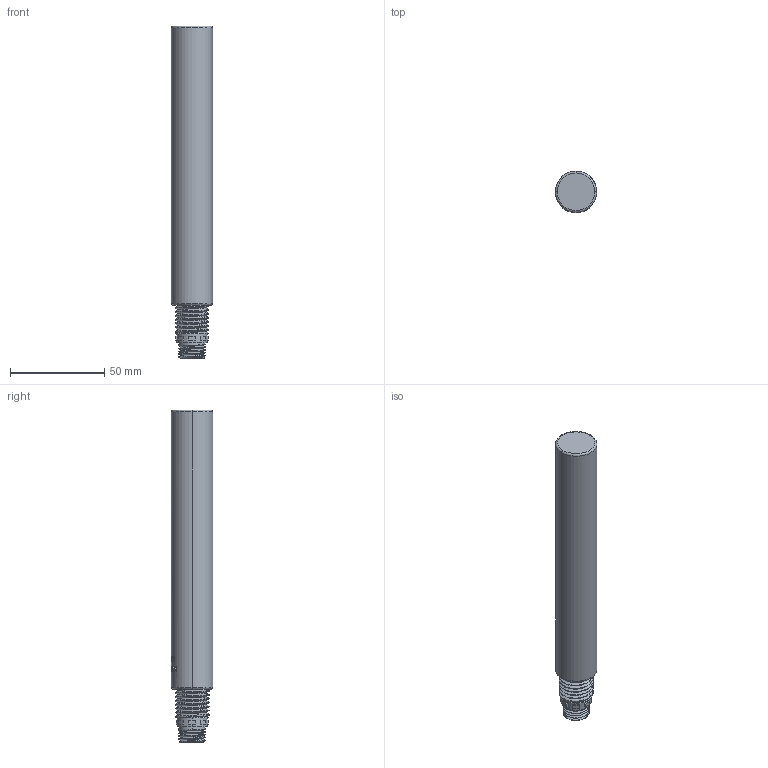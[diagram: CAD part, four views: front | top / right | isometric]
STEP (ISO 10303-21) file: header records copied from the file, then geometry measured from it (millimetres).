
FILE_DESCRIPTION((''),'2;1');
FILE_NAME('KWS-900A_ASM','2026-01-26T10:38:21',('28740194'),(''),'CREO PARAMETRIC BY PTC INC, 2024063','CREO PARAMETRIC BY PTC INC, 2024063','');
FILE_SCHEMA(('CONFIG_CONTROL_DESIGN'));
Length unit declared in the file: millimetre
Products named in the file (5): KWS-900-1; 30001; 11120; 180_ASM; KWS-900A_ASM
Assembly tree (4 placements, depth 3):
  KWS-900A_ASM
    KWS-900-1
    180_ASM
      30001
      11120
Bounding box: 22 x 22.15 x 176.5 mm (x, y, z)
Volume: 4810.8 mm3; surface area: 14388.5 mm2
Topology: 2 solids, 5 shells, 458 faces, 1265 edges, 844 vertices
Faces by surface type: bspline 345, cylinder 56, plane 53, torus 4
Entity records: 21891 total; most frequent: CARTESIAN_POINT 12575, ORIENTED_EDGE 2506, EDGE_CURVE 1265, DIRECTION 869, VERTEX_POINT 844, B_SPLINE_CURVE_WITH_KNOTS 829, EDGE_LOOP 488, FACE_OUTER_BOUND 458
